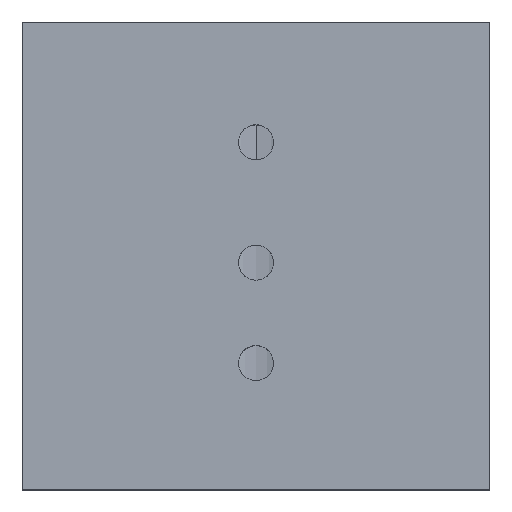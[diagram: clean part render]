
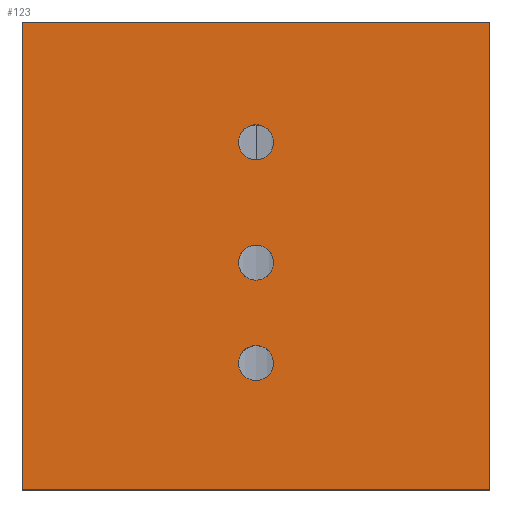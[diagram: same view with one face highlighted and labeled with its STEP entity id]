
A CAD part, top view. The second image highlights one B-rep face of the part: STEP entity #123.
In plain terms, the highlighted planar face has unit normal (0, 0, 1).
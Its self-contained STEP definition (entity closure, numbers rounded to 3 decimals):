
#6 = VERTEX_POINT ( 'NONE', #1130 ) ;
#10 = CARTESIAN_POINT ( 'NONE',  ( 40., 20., 18. ) ) ;
#43 = LINE ( 'NONE', #10, #1262 ) ;
#66 = EDGE_LOOP ( 'NONE', ( #172, #670 ) ) ;
#67 = CARTESIAN_POINT ( 'NONE',  ( 20., 9.7, 18. ) ) ;
#69 = PLANE ( 'NONE',  #292 ) ;
#83 = DIRECTION ( 'NONE',  ( -1., 0., 0. ) ) ;
#96 = EDGE_CURVE ( 'NONE', #373, #704, #247, .T. ) ;
#97 = CIRCLE ( 'NONE', #499, 1.5 ) ;
#98 = VERTEX_POINT ( 'NONE', #1222 ) ;
#99 = DIRECTION ( 'NONE',  ( 1., 0., 0. ) ) ;
#103 = DIRECTION ( 'NONE',  ( 1., 0., 0. ) ) ;
#123 = ADVANCED_FACE ( 'NONE', ( #1063, #223, #871, #1309 ), #69, .F. ) ;
#146 = DIRECTION ( 'NONE',  ( 0., 0., 1. ) ) ;
#172 = ORIENTED_EDGE ( 'NONE', *, *, #431, .F. ) ;
#173 = CARTESIAN_POINT ( 'NONE',  ( 20., -9.2, 18. ) ) ;
#202 = ORIENTED_EDGE ( 'NONE', *, *, #96, .T. ) ;
#223 = FACE_BOUND ( 'NONE', #66, .T. ) ;
#247 = LINE ( 'NONE', #490, #652 ) ;
#255 = EDGE_CURVE ( 'NONE', #463, #6, #337, .T. ) ;
#277 = VERTEX_POINT ( 'NONE', #756 ) ;
#292 = AXIS2_PLACEMENT_3D ( 'NONE', #1047, #303, #632 ) ;
#303 = DIRECTION ( 'NONE',  ( 0., 0., -1. ) ) ;
#310 = DIRECTION ( 'NONE',  ( 0., 0., 1. ) ) ;
#326 = ORIENTED_EDGE ( 'NONE', *, *, #380, .F. ) ;
#327 = EDGE_CURVE ( 'NONE', #1072, #98, #1341, .T. ) ;
#331 = CARTESIAN_POINT ( 'NONE',  ( 20., -0.6, 18. ) ) ;
#337 = CIRCLE ( 'NONE', #801, 1.5 ) ;
#373 = VERTEX_POINT ( 'NONE', #1247 ) ;
#377 = CARTESIAN_POINT ( 'NONE',  ( 40., -20., 18. ) ) ;
#380 = EDGE_CURVE ( 'NONE', #627, #449, #998, .T. ) ;
#387 = DIRECTION ( 'NONE',  ( 0., 0., 1. ) ) ;
#397 = CARTESIAN_POINT ( 'NONE',  ( 40., 20., 18. ) ) ;
#407 = DIRECTION ( 'NONE',  ( 1., 0., 0. ) ) ;
#410 = ORIENTED_EDGE ( 'NONE', *, *, #549, .T. ) ;
#414 = ORIENTED_EDGE ( 'NONE', *, *, #450, .F. ) ;
#430 = CARTESIAN_POINT ( 'NONE',  ( 21.5, -9.2, 18. ) ) ;
#431 = EDGE_CURVE ( 'NONE', #277, #769, #712, .T. ) ;
#435 = CARTESIAN_POINT ( 'NONE',  ( 0., -20., 18. ) ) ;
#442 = ORIENTED_EDGE ( 'NONE', *, *, #327, .F. ) ;
#449 = VERTEX_POINT ( 'NONE', #1224 ) ;
#450 = EDGE_CURVE ( 'NONE', #98, #1072, #496, .T. ) ;
#462 = EDGE_CURVE ( 'NONE', #769, #277, #97, .T. ) ;
#463 = VERTEX_POINT ( 'NONE', #430 ) ;
#488 = VECTOR ( 'NONE', #83, 1000. ) ;
#490 = CARTESIAN_POINT ( 'NONE',  ( 0., -20., 18. ) ) ;
#496 = CIRCLE ( 'NONE', #520, 1.5 ) ;
#499 = AXIS2_PLACEMENT_3D ( 'NONE', #516, #310, #99 ) ;
#516 = CARTESIAN_POINT ( 'NONE',  ( 20., 9.7, 18. ) ) ;
#517 = EDGE_CURVE ( 'NONE', #6, #463, #867, .T. ) ;
#520 = AXIS2_PLACEMENT_3D ( 'NONE', #791, #1266, #761 ) ;
#549 = EDGE_CURVE ( 'NONE', #627, #373, #43, .T. ) ;
#592 = DIRECTION ( 'NONE',  ( 0., 0., 1. ) ) ;
#626 = EDGE_CURVE ( 'NONE', #449, #704, #1250, .T. ) ;
#627 = VERTEX_POINT ( 'NONE', #397 ) ;
#632 = DIRECTION ( 'NONE',  ( -1., 0., 0. ) ) ;
#652 = VECTOR ( 'NONE', #678, 1000. ) ;
#666 = EDGE_LOOP ( 'NONE', ( #202, #792, #326, #410 ) ) ;
#670 = ORIENTED_EDGE ( 'NONE', *, *, #462, .F. ) ;
#678 = DIRECTION ( 'NONE',  ( 0., -1., 0. ) ) ;
#704 = VERTEX_POINT ( 'NONE', #435 ) ;
#712 = CIRCLE ( 'NONE', #755, 1.5 ) ;
#737 = CARTESIAN_POINT ( 'NONE',  ( 20., -9.2, 18. ) ) ;
#755 = AXIS2_PLACEMENT_3D ( 'NONE', #67, #592, #407 ) ;
#756 = CARTESIAN_POINT ( 'NONE',  ( 18.5, 9.7, 18. ) ) ;
#761 = DIRECTION ( 'NONE',  ( 1., 0., 0. ) ) ;
#769 = VERTEX_POINT ( 'NONE', #771 ) ;
#771 = CARTESIAN_POINT ( 'NONE',  ( 21.5, 9.7, 18. ) ) ;
#791 = CARTESIAN_POINT ( 'NONE',  ( 20., -0.6, 18. ) ) ;
#792 = ORIENTED_EDGE ( 'NONE', *, *, #626, .F. ) ;
#801 = AXIS2_PLACEMENT_3D ( 'NONE', #173, #1109, #903 ) ;
#811 = EDGE_LOOP ( 'NONE', ( #1135, #1154 ) ) ;
#867 = CIRCLE ( 'NONE', #1314, 1.5 ) ;
#871 = FACE_BOUND ( 'NONE', #948, .T. ) ;
#903 = DIRECTION ( 'NONE',  ( 1., 0., 0. ) ) ;
#948 = EDGE_LOOP ( 'NONE', ( #442, #414 ) ) ;
#969 = CARTESIAN_POINT ( 'NONE',  ( 40., -20., 18. ) ) ;
#972 = DIRECTION ( 'NONE',  ( -1., 0., 0. ) ) ;
#998 = LINE ( 'NONE', #377, #1313 ) ;
#1047 = CARTESIAN_POINT ( 'NONE',  ( 40., -20., 18. ) ) ;
#1063 = FACE_OUTER_BOUND ( 'NONE', #666, .T. ) ;
#1072 = VERTEX_POINT ( 'NONE', #1084 ) ;
#1084 = CARTESIAN_POINT ( 'NONE',  ( 18.5, -0.6, 18. ) ) ;
#1109 = DIRECTION ( 'NONE',  ( 0., 0., 1. ) ) ;
#1130 = CARTESIAN_POINT ( 'NONE',  ( 18.5, -9.2, 18. ) ) ;
#1135 = ORIENTED_EDGE ( 'NONE', *, *, #517, .F. ) ;
#1154 = ORIENTED_EDGE ( 'NONE', *, *, #255, .F. ) ;
#1158 = AXIS2_PLACEMENT_3D ( 'NONE', #331, #146, #103 ) ;
#1222 = CARTESIAN_POINT ( 'NONE',  ( 21.5, -0.6, 18. ) ) ;
#1224 = CARTESIAN_POINT ( 'NONE',  ( 40., -20., 18. ) ) ;
#1247 = CARTESIAN_POINT ( 'NONE',  ( 0., 20., 18. ) ) ;
#1250 = LINE ( 'NONE', #969, #488 ) ;
#1262 = VECTOR ( 'NONE', #972, 1000. ) ;
#1266 = DIRECTION ( 'NONE',  ( 0., 0., 1. ) ) ;
#1285 = DIRECTION ( 'NONE',  ( 1., 0., 0. ) ) ;
#1309 = FACE_BOUND ( 'NONE', #811, .T. ) ;
#1313 = VECTOR ( 'NONE', #1329, 1000. ) ;
#1314 = AXIS2_PLACEMENT_3D ( 'NONE', #737, #387, #1285 ) ;
#1329 = DIRECTION ( 'NONE',  ( 0., -1., 0. ) ) ;
#1341 = CIRCLE ( 'NONE', #1158, 1.5 ) ;
